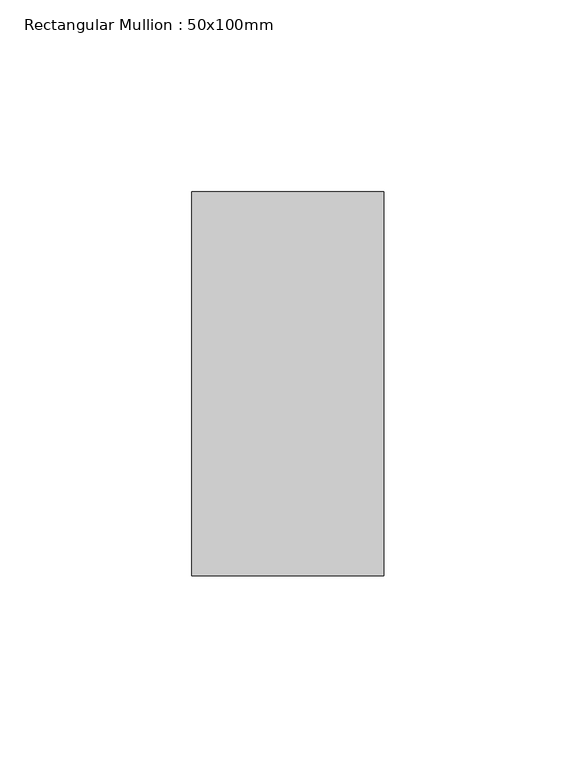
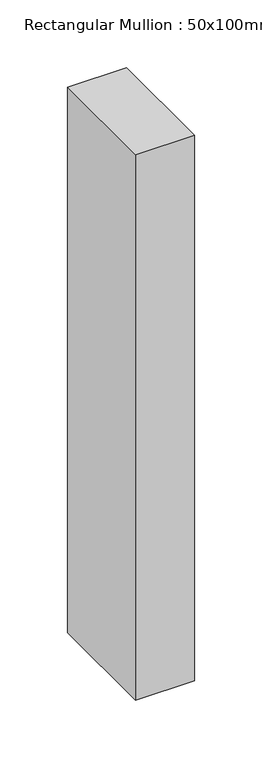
"""IFC4 building model written with IfcOpenShell, lengths in millimetres: member geometry, Rectangular Mullion : 50x100mm."""

import ifcopenshell
import ifcopenshell.guid

model = None  # the IFC model being written
_history = None  # IfcOwnerHistory: only IFC2X3 demands one
_inside = {}  # id of a spatial element -> (the spatial element, [elements in it])
_under = {}  # id of a project, library or spatial element -> (it, [spatial elements below it])
_declared = {}  # id of a project -> (the project, [libraries it declares])
_typed = {}  # id of a type object -> (the type object, [elements of that type])
_made_of = {}  # id of a material, layer set ... -> (it, [elements and type objects made of it])


def new_model(schema):
    """Start an empty IFC model of exactly this schema.

    Asked for "IFC4X3", IfcOpenShell would pick the latest addendum, in which some entities
    have other attributes; the version numbers below select the first issue.
    IFC2X3 requires an IfcOwnerHistory on every rooted entity: one is made here for all.
    """
    global model, _history
    if schema == "IFC4X3":
        model = ifcopenshell.file(schema_version=(4, 3, 0, 0))
    else:
        model = ifcopenshell.file(schema=schema)
    _inside.clear()
    _under.clear()
    _declared.clear()
    _typed.clear()
    _made_of.clear()
    _history = None
    if model.schema == "IFC2X3":
        org = make("IfcOrganization", Name="unknown")
        user = make(
            "IfcPersonAndOrganization",
            ThePerson=make("IfcPerson", FamilyName="unknown"),
            TheOrganization=org,
        )
        app = make(
            "IfcApplication",
            ApplicationDeveloper=org,
            Version="unknown",
            ApplicationFullName="unknown",
            ApplicationIdentifier="unknown",
        )
        _history = make(
            "IfcOwnerHistory",
            OwningUser=user,
            OwningApplication=app,
            ChangeAction="ADDED",
            CreationDate=0,
        )
    return model


def make(cls, **values):
    """One entity of the class cls with the attributes given. An attribute that is None is left unset."""
    return model.create_entity(
        cls, **{name: value for name, value in values.items() if value is not None}
    )


def rooted(cls, **values):
    """An entity with a GlobalId (a new one), such as an element, a storey or a relation."""
    return make(cls, GlobalId=ifcopenshell.guid.new(), OwnerHistory=_history, **values)


def si_unit(unit_type, name, prefix=None):
    """IfcSIUnit, for example si_unit("LENGTHUNIT", "METRE", prefix="MILLI")."""
    return make("IfcSIUnit", UnitType=unit_type, Prefix=prefix, Name=name)


def assignment(units):
    """IfcUnitAssignment: the units of a project."""
    return None if units is None else make("IfcUnitAssignment", Units=units)


def point(xyz):
    """IfcCartesianPoint."""
    return None if xyz is None else make("IfcCartesianPoint", Coordinates=xyz)


def direction(xyz):
    """IfcDirection."""
    return None if xyz is None else make("IfcDirection", DirectionRatios=xyz)


def frame(location, z_axis=None, x_axis=None):
    """IfcAxis2Placement3D, a coordinate frame: its origin and axes. An axis left out is left unset."""
    return make(
        "IfcAxis2Placement3D",
        Location=point(location),
        Axis=direction(z_axis),
        RefDirection=direction(x_axis),
    )


def origin():
    """The frame at (0, 0, 0) with its axes left unset."""
    return frame((0.0, 0.0, 0.0))


def place(relative_to, where):
    """IfcLocalPlacement: puts the frame where relative to a parent placement (None: the world)."""
    return make(
        "IfcLocalPlacement", PlacementRelTo=relative_to, RelativePlacement=where
    )


def context(
    kind, dimensions, precision=None, world=None, true_north=None, identifier=None
):
    """IfcGeometricRepresentationContext, for example the 3D "Model" context."""
    return make(
        "IfcGeometricRepresentationContext",
        ContextIdentifier=identifier,
        ContextType=kind,
        CoordinateSpaceDimension=dimensions,
        Precision=precision,
        WorldCoordinateSystem=world,
        TrueNorth=true_north,
    )


def project(units=None, contexts=None):
    """IfcProject with its units and contexts."""
    return rooted(
        "IfcProject",
        Name="project",
        RepresentationContexts=contexts,
        UnitsInContext=assignment(units),
    )


def spatial(cls, under=None, at=None, **own):
    """A site, building, storey or space (cls), placed at a placement, below another one or the project."""
    s = rooted(cls, ObjectPlacement=at, **own)
    if under is not None:
        _under.setdefault(under.id(), (under, []))[1].append(s)
    return s


def polyline(points):
    """IfcPolyline through the points."""
    return make("IfcPolyline", Points=[point(p) for p in points])


def outline(outer, holes=None, kind="AREA"):
    """IfcArbitraryClosedProfileDef: a profile drawn as a closed curve; with holes, ...WithVoids."""
    if holes is None:
        return make("IfcArbitraryClosedProfileDef", ProfileType=kind, OuterCurve=outer)
    return make(
        "IfcArbitraryProfileDefWithVoids",
        ProfileType=kind,
        OuterCurve=outer,
        InnerCurves=holes,
    )


def extrude(swept, where, along, depth):
    """IfcExtrudedAreaSolid: the profile swept, set in the frame where, extruded along a direction by depth."""
    return make(
        "IfcExtrudedAreaSolid",
        SweptArea=swept,
        Position=where,
        ExtrudedDirection=direction(along),
        Depth=depth,
    )


def shape(context_of_items, identifier, shape_type, items):
    """IfcShapeRepresentation: the items that make up one representation, for example the "Body"."""
    return make(
        "IfcShapeRepresentation",
        ContextOfItems=context_of_items,
        RepresentationIdentifier=identifier,
        RepresentationType=shape_type,
        Items=items,
    )


def source(mapping_origin, context_of_items, identifier, shape_type, items):
    """IfcRepresentationMap: a shape defined once, which mapped items show again and again."""
    return make(
        "IfcRepresentationMap",
        MappingOrigin=mapping_origin,
        MappedRepresentation=shape(context_of_items, identifier, shape_type, items),
    )


def transform(
    local_origin,
    x_axis=None,
    y_axis=None,
    z_axis=None,
    scale=None,
    scale2=None,
    scale3=None,
    uniform=True,
):
    """IfcCartesianTransformationOperator3D, or its non-uniform kind. x_axis, y_axis, z_axis: its Axis1, 2, 3."""
    if uniform:
        return make(
            "IfcCartesianTransformationOperator3D",
            Axis1=direction(x_axis),
            Axis2=direction(y_axis),
            LocalOrigin=point(local_origin),
            Scale=scale,
            Axis3=direction(z_axis),
        )
    return make(
        "IfcCartesianTransformationOperator3DnonUniform",
        Axis1=direction(x_axis),
        Axis2=direction(y_axis),
        LocalOrigin=point(local_origin),
        Scale=scale,
        Axis3=direction(z_axis),
        Scale2=scale2,
        Scale3=scale3,
    )


def mapped(mapping_source, mapping_target):
    """IfcMappedItem: shows the shape of a source again, moved by a transform."""
    return make(
        "IfcMappedItem", MappingSource=mapping_source, MappingTarget=mapping_target
    )


def made_of(thing, what):
    """Note that an element or type object is made of a material, layer set ...; save() writes the relation."""
    if what is not None:
        _made_of.setdefault(what.id(), (what, []))[1].append(thing)
    return thing


def element(
    cls,
    number,
    at=None,
    inside=None,
    cuts=None,
    type_object=None,
    material=None,
    context=None,
    identifier="Body",
    shape_type=None,
    held_by="IfcProductDefinitionShape",
    body=None,
    shapes=None,
    **own,
):
    """One element of the class cls, such as IfcWall. Its Tag is "e" and its number.

    at: its placement. inside: the storey or other place that contains it. cuts: it is an
    opening in that element (IfcRelVoidsElement). A single representation is given by context,
    identifier, shape_type and body (its items); several are given by shapes. held_by: the class
    of the entity that holds the representations. save() writes the other relations.
    """
    e = rooted(cls, Tag="e%d" % number, ObjectPlacement=at, **own)
    if body is not None:
        shapes = [shape(context, identifier, shape_type, body)]
    if shapes is not None:
        e.Representation = make(held_by, Representations=shapes)
    if inside is not None:
        _inside.setdefault(inside.id(), (inside, []))[1].append(e)
    if cuts is not None:
        rooted(
            "IfcRelVoidsElement", RelatingBuildingElement=cuts, RelatedOpeningElement=e
        )
    if type_object is not None:
        _typed.setdefault(type_object.id(), (type_object, []))[1].append(e)
    return made_of(e, material)


def aggregate(whole, parts):
    """IfcRelAggregates: a whole, such as a stair, and the parts it consists of."""
    return rooted("IfcRelAggregates", RelatingObject=whole, RelatedObjects=parts)


def save(model, path):
    """Write the relations noted so far, then the file.

    IfcRelAggregates (storeys below a building ...), IfcRelContainedInSpatialStructure (elements
    in a storey), IfcRelDefinesByType, IfcRelAssociatesMaterial and IfcRelDeclares: one each for
    every whole, place, type object, material and project.
    """
    for whole, parts in _under.values():
        aggregate(whole, parts)
    for where, things in _inside.values():
        rooted(
            "IfcRelContainedInSpatialStructure",
            RelatedElements=things,
            RelatingStructure=where,
        )
    for kind, things in _typed.values():
        rooted("IfcRelDefinesByType", RelatedObjects=things, RelatingType=kind)
    for what, things in _made_of.values():
        rooted("IfcRelAssociatesMaterial", RelatedObjects=things, RelatingMaterial=what)
    for by, libraries in _declared.values():
        rooted("IfcRelDeclares", RelatingContext=by, RelatedDefinitions=libraries)
    model.write(path)


def rectangular_mullion_50x100mm_c06a8f86(model_context):
    return source(origin(), model_context, "Body", "SweptSolid", [
        extrude(outline(polyline([(0.0, 50.0), (0.0, -50.0), (-50.0, -50.0), (-50.0, 50.0), (0.0, 50.0)])), frame((0.0, 0.0, -490.3545316), z_axis=(0.0, 0.0, 1.0), x_axis=(1.0, 0.0, 0.0)), (0.0, 0.0, 1.0), 490.3545316),
    ])


if __name__ == "__main__":
    model = new_model("IFC4")
    model_context = context("Model", 3, world=origin())
    ifc_project = project(units=[si_unit("LENGTHUNIT", "METRE", prefix="MILLI")], contexts=[model_context])
    site = spatial("IfcSite", under=ifc_project)
    building = spatial("IfcBuilding", under=site)
    placement = place(None, origin())
    rectangular_mullion_50x100mm_shape = rectangular_mullion_50x100mm_c06a8f86(model_context)
    element("IfcMember", 1, ObjectType="Rectangular Mullion : 50x100mm", at=placement, inside=building, context=model_context, shape_type="MappedRepresentation", body=[
        mapped(rectangular_mullion_50x100mm_shape, transform((0.0, 0.0, 0.0), x_axis=(1.0, 0.0, 0.0), y_axis=(0.0, 1.0, 0.0), z_axis=(0.0, 0.0, 1.0))),
    ])
    save(model, "model.ifc")
